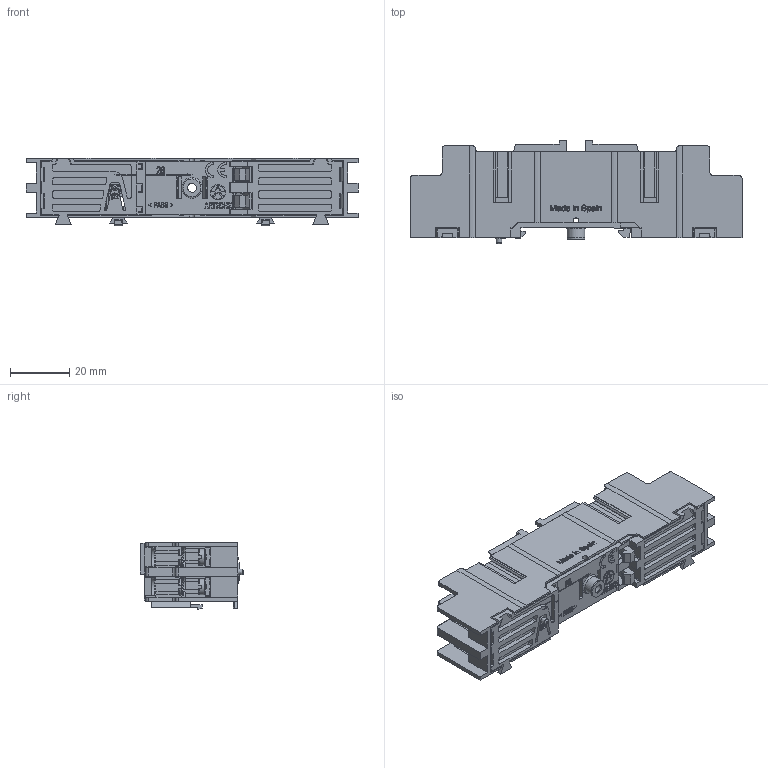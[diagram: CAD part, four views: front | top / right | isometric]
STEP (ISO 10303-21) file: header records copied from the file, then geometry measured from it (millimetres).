
FILE_DESCRIPTION (( 'STEP AP203' ), '1' );
FILE_NAME ('DN DE IP20.STEP', '2018-10-31T11:02:53', ( 'arteche' ), ( '' ), 'SwSTEP 2.0', 'SolidWorks 2017', '' );
FILE_SCHEMA (( 'CONFIG_CONTROL_DESIGN' ));
Length unit declared in the file: millimetre
Products named in the file (10): 527500193; 272020025; 418640801; DN DE IP20; 418640900_BASE DE INFERIOR PLUS; 527570949_527570949 PINZA DE CORTA IP10; 578609059; 584010045_TUERCA CUADRADA 7X7X2 M.3; 527500094; 527570147_527570147 PINZA DE LARGA OP
Assembly tree (17 placements, depth 3):
  DN DE IP20
    418640801
    418640900_BASE DE INFERIOR PLUS
    527500094  x4
      527570949_527570949 PINZA DE CORTA IP10
      578609059
      584010045_TUERCA CUADRADA 7X7X2 M.3
    527500193  x4
      527570147_527570147 PINZA DE LARGA OP
      578609059
      584010045_TUERCA CUADRADA 7X7X2 M.3
    272020025
Bounding box: 112 x 34.8 x 22.8 mm (x, y, z)
Volume: 26613.7 mm3; surface area: 49215.4 mm2
Topology: 35 solids, 35 shells, 4479 faces, 11772 edges, 7380 vertices
Faces by surface type: plane 3236, cylinder 693, bspline 348, cone 73, torus 65, sphere 64
Full cylindrical faces by diameter (mm): 2.15 x16, 2.35 x8, 2.786 x2, 3 x17, 3.1 x8, 3.284 x1, 4.08 x1, 4.3 x2, 5 x1, 5.5 x8, 6 x2
Entity records: 112688 total; most frequent: CARTESIAN_POINT 35247, ORIENTED_EDGE 16834, DIRECTION 13969, EDGE_CURVE 8417, VECTOR 6829, LINE 6829, VERTEX_POINT 5469, AXIS2_PLACEMENT_3D 3570
